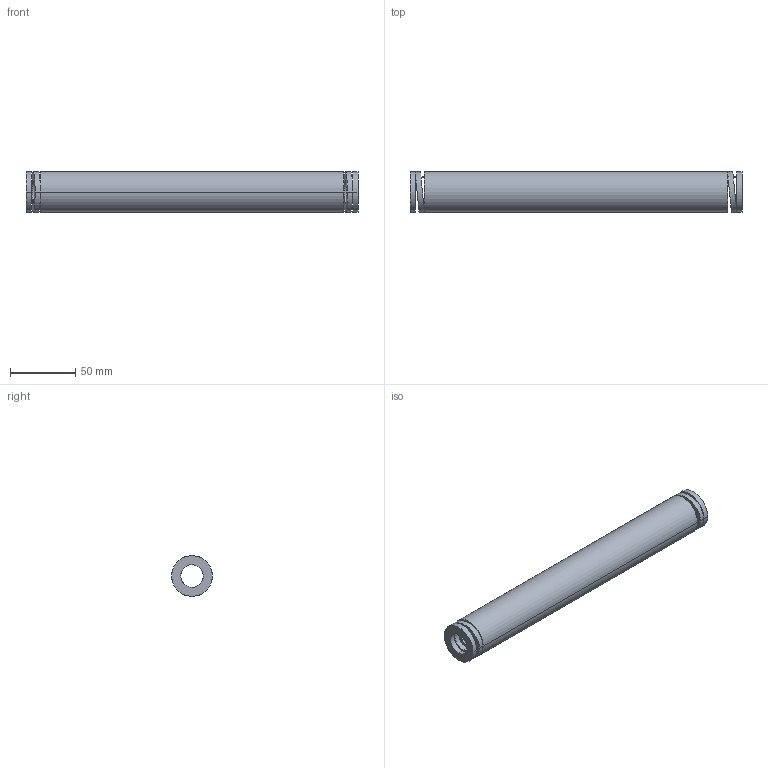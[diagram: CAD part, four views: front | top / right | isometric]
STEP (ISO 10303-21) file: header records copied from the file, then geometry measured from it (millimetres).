
FILE_DESCRIPTION(('CATIA V5 STEP Exchange'),'2;1');
FILE_NAME('C:\Users\Utente\Desktop\IO LAVORO\3D X SITO CF\X SITO\3D files 392B\392-B32-254.stp','2021-08-13T08:48:18+00:00',('none'),('none'),'CATIA Version 5 Release 20 GA (IN-10)','CATIA V5 STEP AP203','none');
FILE_SCHEMA(('CONFIG_CONTROL_DESIGN'));
Length unit declared in the file: millimetre
Products named in the file (1): 392-B32-254
Bounding box: 254 x 31.24 x 31 mm (x, y, z)
Volume: 128173.3 mm3; surface area: 42871.5 mm2
Topology: 1 solids, 1 shells, 38 faces, 92 edges, 64 vertices
Faces by surface type: cylinder 28, plane 10
Entity records: 1548 total; most frequent: CARTESIAN_POINT 653, ORIENTED_EDGE 184, DIRECTION 132, EDGE_CURVE 92, AXIS2_PLACEMENT_3D 67, VERTEX_POINT 64, EDGE_LOOP 56, ADVANCED_FACE 38
